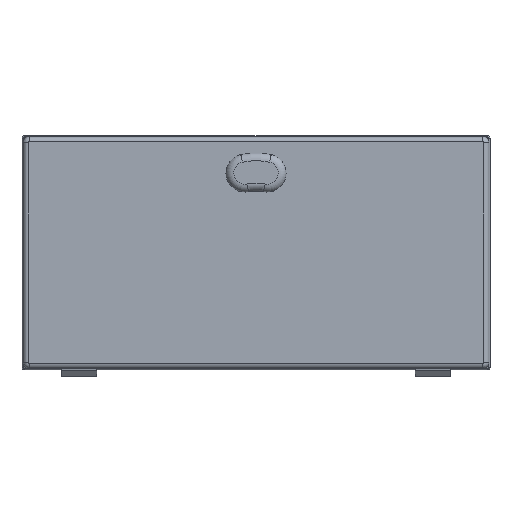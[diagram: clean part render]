
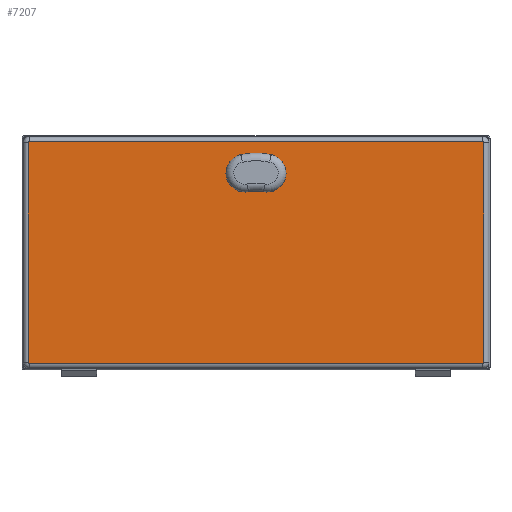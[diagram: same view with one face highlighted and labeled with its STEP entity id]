
A CAD part, top view. The second image highlights one B-rep face of the part: STEP entity #7207.
In plain terms, the highlighted planar face has unit normal (0, 0, 1).
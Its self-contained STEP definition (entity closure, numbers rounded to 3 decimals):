
#51 = VERTEX_POINT ( 'NONE', #5630 ) ;
#137 = CARTESIAN_POINT ( 'NONE',  ( 0., -68., 0. ) ) ;
#210 = CARTESIAN_POINT ( 'NONE',  ( 194.8, 94., 0. ) ) ;
#388 = EDGE_CURVE ( 'NONE', #459, #4480, #7952, .T. ) ;
#407 = VECTOR ( 'NONE', #828, 1000. ) ;
#459 = VERTEX_POINT ( 'NONE', #5490 ) ;
#500 = EDGE_CURVE ( 'NONE', #1802, #1477, #4243, .T. ) ;
#587 = EDGE_CURVE ( 'NONE', #2248, #51, #5866, .T. ) ;
#631 = ORIENTED_EDGE ( 'NONE', *, *, #500, .F. ) ;
#727 = ORIENTED_EDGE ( 'NONE', *, *, #587, .F. ) ;
#756 = EDGE_CURVE ( 'NONE', #51, #1802, #3425, .T. ) ;
#769 = CARTESIAN_POINT ( 'NONE',  ( -194., -94.8, 0. ) ) ;
#800 = VERTEX_POINT ( 'NONE', #6613 ) ;
#828 = DIRECTION ( 'NONE',  ( -1., 0., 0. ) ) ;
#835 = CARTESIAN_POINT ( 'NONE',  ( -194.8, 94., 0. ) ) ;
#899 = ORIENTED_EDGE ( 'NONE', *, *, #3949, .T. ) ;
#900 = CARTESIAN_POINT ( 'NONE',  ( 194.8, -94., 0. ) ) ;
#932 = CIRCLE ( 'NONE', #2707, 0.8 ) ;
#991 = CIRCLE ( 'NONE', #7231, 0.8 ) ;
#994 = CARTESIAN_POINT ( 'NONE',  ( 194., 94., 0. ) ) ;
#1110 = DIRECTION ( 'NONE',  ( -1., 0., 0. ) ) ;
#1240 = LINE ( 'NONE', #2428, #4629 ) ;
#1325 = FACE_BOUND ( 'NONE', #1592, .T. ) ;
#1347 = AXIS2_PLACEMENT_3D ( 'NONE', #3997, #7709, #3238 ) ;
#1388 = VECTOR ( 'NONE', #2892, 1000. ) ;
#1454 = ORIENTED_EDGE ( 'NONE', *, *, #3021, .F. ) ;
#1459 = CARTESIAN_POINT ( 'NONE',  ( -10.1, -63.045, 0. ) ) ;
#1469 = CARTESIAN_POINT ( 'NONE',  ( -194., -94., 0. ) ) ;
#1477 = VERTEX_POINT ( 'NONE', #2618 ) ;
#1496 = VERTEX_POINT ( 'NONE', #1459 ) ;
#1592 = EDGE_LOOP ( 'NONE', ( #727, #3877, #5953, #7703, #7131, #1454, #631, #4549 ) ) ;
#1623 = CIRCLE ( 'NONE', #6799, 11.25 ) ;
#1672 = CARTESIAN_POINT ( 'NONE',  ( 194., -94., 0. ) ) ;
#1721 = EDGE_CURVE ( 'NONE', #800, #4269, #991, .T. ) ;
#1747 = CARTESIAN_POINT ( 'NONE',  ( -4.955, -57.9, 0. ) ) ;
#1802 = VERTEX_POINT ( 'NONE', #2492 ) ;
#1913 = CARTESIAN_POINT ( 'NONE',  ( -4.955, -78.1, 0. ) ) ;
#1971 = CARTESIAN_POINT ( 'NONE',  ( 194., 94.8, 0. ) ) ;
#2099 = DIRECTION ( 'NONE',  ( 0., 0., -1. ) ) ;
#2134 = CARTESIAN_POINT ( 'NONE',  ( -4.955, -57.9, 0. ) ) ;
#2244 = ORIENTED_EDGE ( 'NONE', *, *, #7350, .T. ) ;
#2248 = VERTEX_POINT ( 'NONE', #5626 ) ;
#2379 = VERTEX_POINT ( 'NONE', #769 ) ;
#2428 = CARTESIAN_POINT ( 'NONE',  ( -194.8, -94., 0. ) ) ;
#2464 = VERTEX_POINT ( 'NONE', #7265 ) ;
#2492 = CARTESIAN_POINT ( 'NONE',  ( 10.1, -72.955, 0. ) ) ;
#2618 = CARTESIAN_POINT ( 'NONE',  ( 10.1, -63.045, 0. ) ) ;
#2621 = CARTESIAN_POINT ( 'NONE',  ( -10.1, -72.955, 0. ) ) ;
#2707 = AXIS2_PLACEMENT_3D ( 'NONE', #4956, #7539, #6381 ) ;
#2861 = EDGE_CURVE ( 'NONE', #5277, #7568, #1240, .T. ) ;
#2863 = DIRECTION ( 'NONE',  ( -1., 0., 0. ) ) ;
#2883 = ORIENTED_EDGE ( 'NONE', *, *, #4660, .T. ) ;
#2892 = DIRECTION ( 'NONE',  ( 0., 1., 0. ) ) ;
#2927 = CARTESIAN_POINT ( 'NONE',  ( 0., -68., 0. ) ) ;
#2960 = ORIENTED_EDGE ( 'NONE', *, *, #2861, .T. ) ;
#3021 = EDGE_CURVE ( 'NONE', #1477, #459, #8015, .T. ) ;
#3023 = VECTOR ( 'NONE', #1110, 1000. ) ;
#3147 = CARTESIAN_POINT ( 'NONE',  ( 194., -94.8, 0. ) ) ;
#3238 = DIRECTION ( 'NONE',  ( 1., 0., 0. ) ) ;
#3273 = AXIS2_PLACEMENT_3D ( 'NONE', #2927, #7519, #4108 ) ;
#3425 = CIRCLE ( 'NONE', #7356, 11.25 ) ;
#3817 = EDGE_CURVE ( 'NONE', #4131, #2464, #4214, .T. ) ;
#3843 = CARTESIAN_POINT ( 'NONE',  ( 194.8, 94., 0. ) ) ;
#3872 = EDGE_CURVE ( 'NONE', #4564, #4131, #7165, .T. ) ;
#3877 = ORIENTED_EDGE ( 'NONE', *, *, #4072, .F. ) ;
#3901 = ORIENTED_EDGE ( 'NONE', *, *, #3817, .T. ) ;
#3906 = FACE_OUTER_BOUND ( 'NONE', #5282, .T. ) ;
#3949 = EDGE_CURVE ( 'NONE', #2464, #5277, #932, .T. ) ;
#3997 = CARTESIAN_POINT ( 'NONE',  ( 0., -68., 0. ) ) ;
#4015 = ORIENTED_EDGE ( 'NONE', *, *, #1721, .T. ) ;
#4072 = EDGE_CURVE ( 'NONE', #6207, #2248, #5705, .T. ) ;
#4108 = DIRECTION ( 'NONE',  ( 1., 0., 0. ) ) ;
#4131 = VERTEX_POINT ( 'NONE', #1971 ) ;
#4134 = DIRECTION ( 'NONE',  ( 1., 0., 0. ) ) ;
#4163 = DIRECTION ( 'NONE',  ( -1., 0., 0. ) ) ;
#4214 = LINE ( 'NONE', #5385, #407 ) ;
#4243 = LINE ( 'NONE', #6837, #1388 ) ;
#4257 = DIRECTION ( 'NONE',  ( 0., 0., 1. ) ) ;
#4269 = VERTEX_POINT ( 'NONE', #900 ) ;
#4326 = AXIS2_PLACEMENT_3D ( 'NONE', #994, #4783, #4163 ) ;
#4480 = VERTEX_POINT ( 'NONE', #1747 ) ;
#4549 = ORIENTED_EDGE ( 'NONE', *, *, #756, .F. ) ;
#4564 = VERTEX_POINT ( 'NONE', #3843 ) ;
#4629 = VECTOR ( 'NONE', #5829, 1000. ) ;
#4660 = EDGE_CURVE ( 'NONE', #4269, #4564, #7149, .T. ) ;
#4711 = DIRECTION ( 'NONE',  ( 0., 0., 1. ) ) ;
#4714 = DIRECTION ( 'NONE',  ( 1., 0., 0. ) ) ;
#4783 = DIRECTION ( 'NONE',  ( 0., 0., 1. ) ) ;
#4821 = ORIENTED_EDGE ( 'NONE', *, *, #3872, .T. ) ;
#4956 = CARTESIAN_POINT ( 'NONE',  ( -194., 94., 0. ) ) ;
#5095 = EDGE_CURVE ( 'NONE', #1496, #6207, #7685, .T. ) ;
#5195 = DIRECTION ( 'NONE',  ( 1., 0., 0. ) ) ;
#5258 = ORIENTED_EDGE ( 'NONE', *, *, #7520, .T. ) ;
#5262 = DIRECTION ( 'NONE',  ( 0., 1., 0. ) ) ;
#5277 = VERTEX_POINT ( 'NONE', #835 ) ;
#5282 = EDGE_LOOP ( 'NONE', ( #4015, #2883, #4821, #3901, #899, #2960, #5258, #2244 ) ) ;
#5322 = DIRECTION ( 'NONE',  ( 0., 0., 1. ) ) ;
#5385 = CARTESIAN_POINT ( 'NONE',  ( -194., 94.8, 0. ) ) ;
#5426 = DIRECTION ( 'NONE',  ( 0., 0., 1. ) ) ;
#5433 = VECTOR ( 'NONE', #5195, 1000. ) ;
#5441 = CIRCLE ( 'NONE', #6649, 0.8 ) ;
#5490 = CARTESIAN_POINT ( 'NONE',  ( 4.955, -57.9, 0. ) ) ;
#5626 = CARTESIAN_POINT ( 'NONE',  ( -4.955, -78.1, 0. ) ) ;
#5630 = CARTESIAN_POINT ( 'NONE',  ( 4.955, -78.1, 0. ) ) ;
#5705 = CIRCLE ( 'NONE', #1347, 11.25 ) ;
#5710 = VECTOR ( 'NONE', #5262, 1000. ) ;
#5825 = DIRECTION ( 'NONE',  ( 1., 0., 0. ) ) ;
#5829 = DIRECTION ( 'NONE',  ( 0., -1., 0. ) ) ;
#5866 = LINE ( 'NONE', #1913, #7770 ) ;
#5918 = CARTESIAN_POINT ( 'NONE',  ( -10.1, -72.955, 0. ) ) ;
#5953 = ORIENTED_EDGE ( 'NONE', *, *, #5095, .F. ) ;
#6095 = CARTESIAN_POINT ( 'NONE',  ( 0., -68., 0. ) ) ;
#6207 = VERTEX_POINT ( 'NONE', #5918 ) ;
#6381 = DIRECTION ( 'NONE',  ( -1., 0., 0. ) ) ;
#6421 = PLANE ( 'NONE',  #6776 ) ;
#6487 = EDGE_CURVE ( 'NONE', #4480, #1496, #1623, .T. ) ;
#6613 = CARTESIAN_POINT ( 'NONE',  ( 194., -94.8, 0. ) ) ;
#6649 = AXIS2_PLACEMENT_3D ( 'NONE', #1469, #4711, #7292 ) ;
#6756 = VECTOR ( 'NONE', #8348, 1000. ) ;
#6776 = AXIS2_PLACEMENT_3D ( 'NONE', #7229, #2099, #7913 ) ;
#6799 = AXIS2_PLACEMENT_3D ( 'NONE', #6095, #5426, #4134 ) ;
#6837 = CARTESIAN_POINT ( 'NONE',  ( 10.1, -72.955, 0. ) ) ;
#7131 = ORIENTED_EDGE ( 'NONE', *, *, #388, .F. ) ;
#7149 = LINE ( 'NONE', #210, #5710 ) ;
#7165 = CIRCLE ( 'NONE', #4326, 0.8 ) ;
#7207 = ADVANCED_FACE ( 'NONE', ( #1325, #3906 ), #6421, .F. ) ;
#7229 = CARTESIAN_POINT ( 'NONE',  ( 194., 94., 0. ) ) ;
#7231 = AXIS2_PLACEMENT_3D ( 'NONE', #1672, #4257, #2863 ) ;
#7265 = CARTESIAN_POINT ( 'NONE',  ( -194., 94.8, 0. ) ) ;
#7292 = DIRECTION ( 'NONE',  ( -1., 0., 0. ) ) ;
#7350 = EDGE_CURVE ( 'NONE', #2379, #800, #8318, .T. ) ;
#7356 = AXIS2_PLACEMENT_3D ( 'NONE', #137, #5322, #4714 ) ;
#7519 = DIRECTION ( 'NONE',  ( 0., 0., 1. ) ) ;
#7520 = EDGE_CURVE ( 'NONE', #7568, #2379, #5441, .T. ) ;
#7539 = DIRECTION ( 'NONE',  ( 0., 0., 1. ) ) ;
#7568 = VERTEX_POINT ( 'NONE', #7978 ) ;
#7685 = LINE ( 'NONE', #2621, #6756 ) ;
#7703 = ORIENTED_EDGE ( 'NONE', *, *, #6487, .F. ) ;
#7709 = DIRECTION ( 'NONE',  ( 0., 0., 1. ) ) ;
#7770 = VECTOR ( 'NONE', #5825, 1000. ) ;
#7913 = DIRECTION ( 'NONE',  ( -1., 0., 0. ) ) ;
#7952 = LINE ( 'NONE', #2134, #3023 ) ;
#7978 = CARTESIAN_POINT ( 'NONE',  ( -194.8, -94., 0. ) ) ;
#8015 = CIRCLE ( 'NONE', #3273, 11.25 ) ;
#8318 = LINE ( 'NONE', #3147, #5433 ) ;
#8348 = DIRECTION ( 'NONE',  ( 0., -1., 0. ) ) ;
